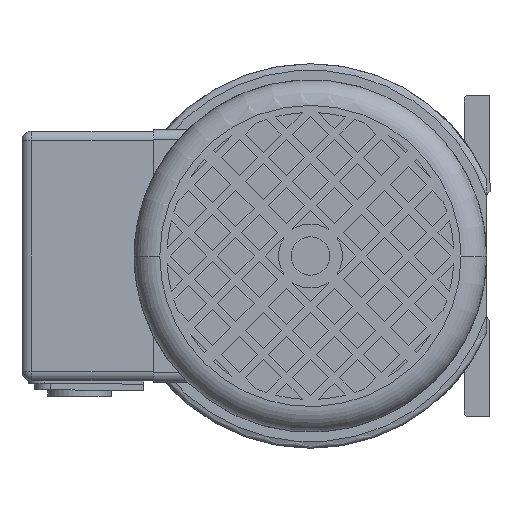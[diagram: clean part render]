
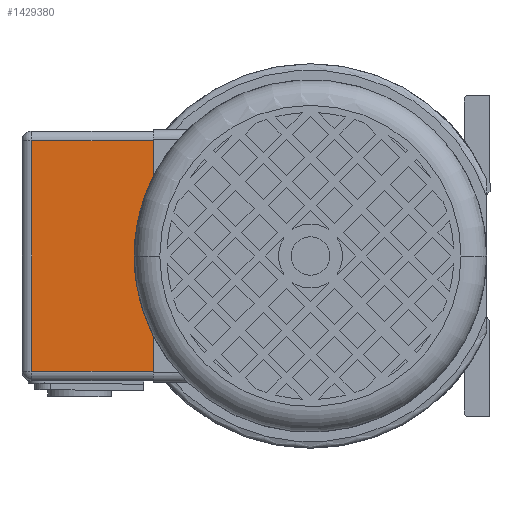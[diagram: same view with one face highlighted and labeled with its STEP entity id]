
A CAD part, left-side view. The second image highlights one B-rep face of the part: STEP entity #1429380.
In plain terms, the highlighted planar face has unit normal (-1, 0, 0) as drawn and (0, 0, -1) by its records, which use the part's own axes.
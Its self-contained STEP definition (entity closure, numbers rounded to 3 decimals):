
#1386480=CARTESIAN_POINT('',(87.,36.,-82.));
#1386490=VERTEX_POINT('',#1386480);
#1407430=CARTESIAN_POINT('',(49.,-36.,-82.));
#1407440=VERTEX_POINT('',#1407430);
#1407470=CARTESIAN_POINT('',(49.,0.,-82.));
#1407480=DIRECTION('',(0.,1.,0.));
#1407490=VECTOR('',#1407480,1.);
#1407500=LINE('',#1407470,#1407490);
#1407510=CARTESIAN_POINT('',(49.,36.,-82.));
#1407520=VERTEX_POINT('',#1407510);
#1407530=EDGE_CURVE('',#1407440,#1407520,#1407500,.T.);
#1429100=CARTESIAN_POINT('',(49.,0.,-82.));
#1429110=DIRECTION('',(0.,0.,-1.));
#1429120=DIRECTION('',(-1.,0.,0.));
#1429130=AXIS2_PLACEMENT_3D('',#1429100,#1429110,#1429120);
#1429140=PLANE('',#1429130);
#1429150=CARTESIAN_POINT('',(87.,0.,-82.));
#1429160=DIRECTION('',(0.,-1.,0.));
#1429170=VECTOR('',#1429160,1.);
#1429180=LINE('',#1429150,#1429170);
#1429190=CARTESIAN_POINT('',(87.,-36.,-82.));
#1429200=VERTEX_POINT('',#1429190);
#1429210=EDGE_CURVE('',#1386490,#1429200,#1429180,.T.);
#1429220=ORIENTED_EDGE('',*,*,#1429210,.T.);
#1429230=CARTESIAN_POINT('',(52.,36.,-82.));
#1429240=DIRECTION('',(1.,0.,0.));
#1429250=VECTOR('',#1429240,1.);
#1429260=LINE('',#1429230,#1429250);
#1429270=EDGE_CURVE('',#1407520,#1386490,#1429260,.T.);
#1429280=ORIENTED_EDGE('',*,*,#1429270,.T.);
#1429290=ORIENTED_EDGE('',*,*,#1407530,.T.);
#1429300=CARTESIAN_POINT('',(52.,-36.,-82.));
#1429310=DIRECTION('',(1.,0.,0.));
#1429320=VECTOR('',#1429310,1.);
#1429330=LINE('',#1429300,#1429320);
#1429340=EDGE_CURVE('',#1407440,#1429200,#1429330,.T.);
#1429350=ORIENTED_EDGE('',*,*,#1429340,.F.);
#1429360=EDGE_LOOP('',(#1429350,#1429290,#1429280,#1429220));
#1429370=FACE_OUTER_BOUND('',#1429360,.T.);
#1429380=ADVANCED_FACE('',(#1429370),#1429140,.T.);
